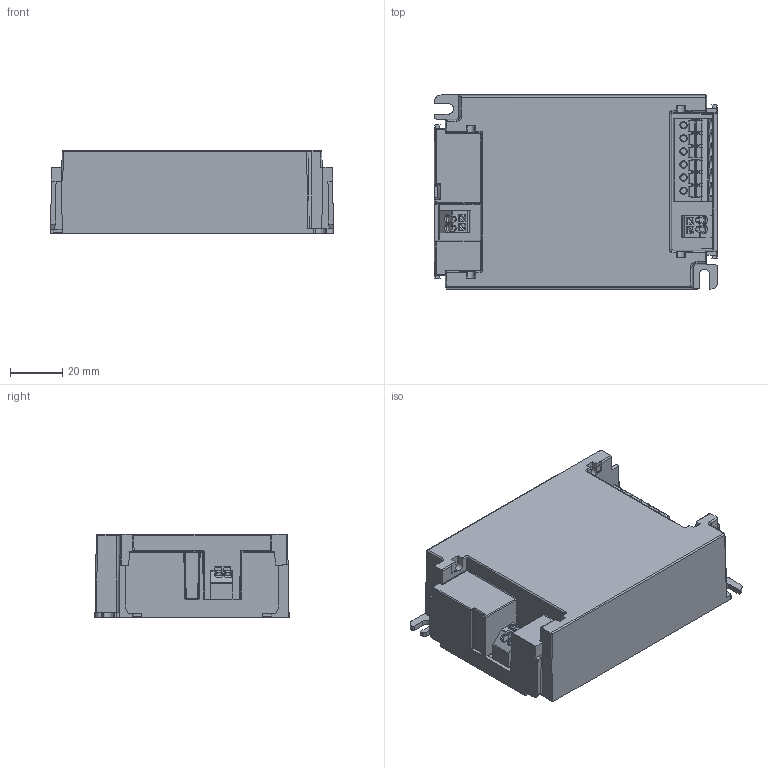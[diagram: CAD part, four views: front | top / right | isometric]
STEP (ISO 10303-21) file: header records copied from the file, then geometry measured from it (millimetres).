
FILE_DESCRIPTION(/* description */ ('','CAx-IF Rec.Pracs.---Representation and Presentation of Product Manufacturing Information (PMI)---3.8---2014-02-18'),/* implementation_level */ '2;1');
FILE_NAME(/* name */ 'C:\Data\Vault\LE-TPD\9290 028 61100_Xitanium 20W WH 0.15-0.5A 54V SR Is 230V\Xitanium WH SR build in sh-010 2021-06-03.stp',/* time_stamp */ '2021-06-03T16:03:34+02:00',/* author */ ('nly19266'),/* organization */ (''),/* preprocessor_version */ 'ST-DEVELOPER v16.5',/* originating_system */ 'Autodesk Inventor 2017',/* authorisation */ '');
FILE_SCHEMA (('AP242_MANAGED_MODEL_BASED_3D_ENGINEERING_MIM_LF { 1 0 10303 442 1 1 4 }'));
Length unit declared in the file: millimetre
Products named in the file (1): Xitanium WH SR build in sh-010
Bounding box: 108.27 x 74.23 x 31.8 mm (x, y, z)
Volume: 217240.9 mm3; surface area: 33797.1 mm2
Topology: 1 solids, 14 shells, 918 faces, 2473 edges, 1616 vertices
Faces by surface type: plane 637, cylinder 206, cone 38, bspline 24, sphere 11, torus 2
Full cylindrical faces by diameter (mm): 1 x4, 1.2 x12, 2.2 x6, 4.4 x6
Entity records: 29786 total; most frequent: CARTESIAN_POINT 5920, ORIENTED_EDGE 4830, DIRECTION 4665, EDGE_CURVE 2415, LINE 1871, VECTOR 1871, VERTEX_POINT 1594, AXIS2_PLACEMENT_3D 1397
